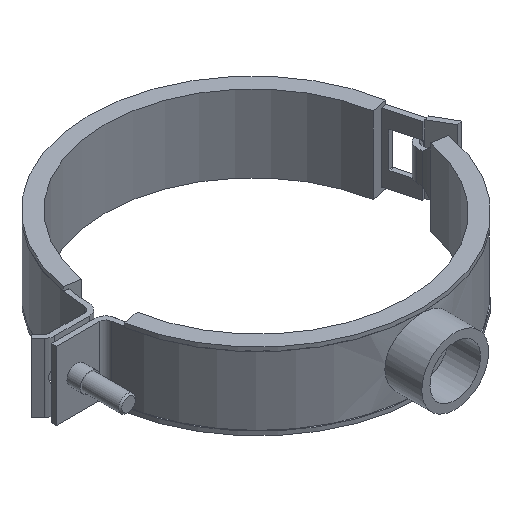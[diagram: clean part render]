
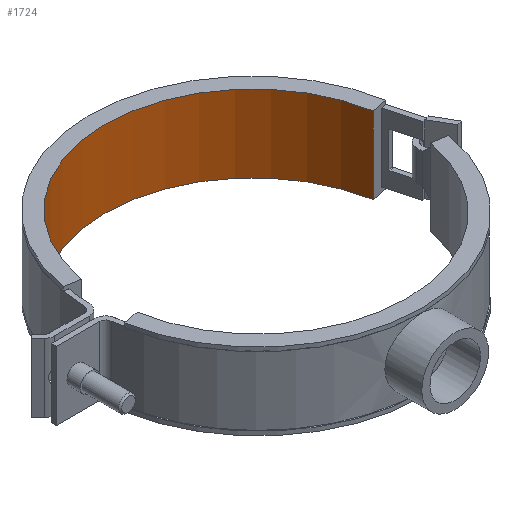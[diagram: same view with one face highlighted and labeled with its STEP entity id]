
A CAD part, isometric view. The second image highlights one B-rep face of the part: STEP entity #1724.
In plain terms, the highlighted cylindrical face has radius 88.5 mm (diameter 177 mm), a partial arc.
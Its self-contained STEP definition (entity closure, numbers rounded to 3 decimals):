
#56=CYLINDRICAL_SURFACE($,#1830,88.5);
#93=FACE_OUTER_BOUND($,#182,.T.);
#182=EDGE_LOOP($,(#1088,#1089,#1090,#1091));
#292=CIRCLE($,#1829,88.5);
#293=CIRCLE($,#1831,88.5);
#378=LINE($,#2544,#524);
#379=LINE($,#2546,#525);
#524=VECTOR($,#2030,46.);
#525=VECTOR($,#2031,46.);
#670=VERTEX_POINT($,#2537);
#671=VERTEX_POINT($,#2539);
#672=VERTEX_POINT($,#2543);
#673=VERTEX_POINT($,#2545);
#839=EDGE_CURVE($,#670,#671,#292,.T.);
#840=EDGE_CURVE($,#670,#672,#378,.T.);
#841=EDGE_CURVE($,#673,#671,#379,.T.);
#842=EDGE_CURVE($,#672,#673,#293,.T.);
#1088=ORIENTED_EDGE($,*,*,#840,.F.);
#1089=ORIENTED_EDGE($,*,*,#839,.T.);
#1090=ORIENTED_EDGE($,*,*,#841,.F.);
#1091=ORIENTED_EDGE($,*,*,#842,.F.);
#1724=ADVANCED_FACE($,(#93),#56,.F.);
#1829=AXIS2_PLACEMENT_3D($,#2541,#2026,#2027);
#1830=AXIS2_PLACEMENT_3D($,#2542,#2028,#2029);
#1831=AXIS2_PLACEMENT_3D($,#2547,#2032,#2033);
#2026=DIRECTION('center_axis',(0.,0.,
1.));
#2027=DIRECTION('ref_axis',(0.985,0.174,0.));
#2028=DIRECTION('center_axis',(0.,0.,1.));
#2029=DIRECTION('ref_axis',(0.985,0.174,0.));
#2030=DIRECTION($,(0.,0.,-1.));
#2031=DIRECTION($,(0.,0.,1.));
#2032=DIRECTION('center_axis',(0.,0.,
1.));
#2033=DIRECTION('ref_axis',(0.985,0.174,0.));
#2537=CARTESIAN_POINT('',(87.155,15.368,43.5));
#2539=CARTESIAN_POINT('',(-87.155,15.368,43.5));
#2541=CARTESIAN_POINT('Origin',(0.,0.,
43.5));
#2542=CARTESIAN_POINT('Origin',(0.,0.,20.5));
#2543=CARTESIAN_POINT('',(87.155,15.368,-2.5));
#2544=CARTESIAN_POINT($,(87.155,15.368,43.5));
#2545=CARTESIAN_POINT('',(-87.155,15.368,-2.5));
#2546=CARTESIAN_POINT($,(-87.155,15.368,43.5));
#2547=CARTESIAN_POINT('Origin',(0.,0.,
-2.5));
